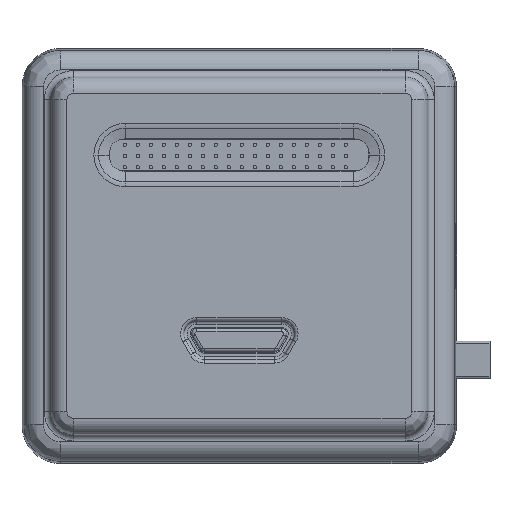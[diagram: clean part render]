
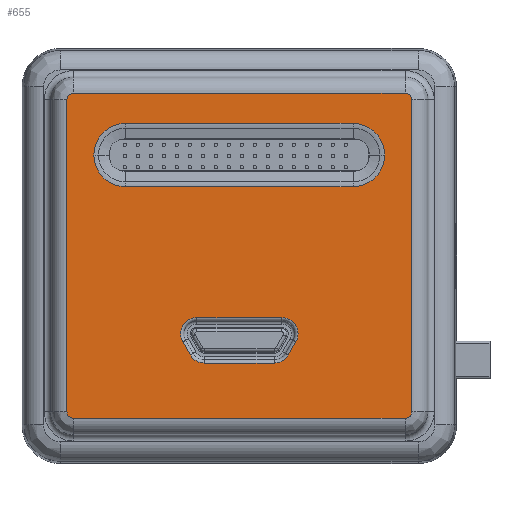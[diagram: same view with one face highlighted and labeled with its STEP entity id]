
A CAD part, top view. The second image highlights one B-rep face of the part: STEP entity #655.
In plain terms, the highlighted planar face has unit normal (0, 0, 1).
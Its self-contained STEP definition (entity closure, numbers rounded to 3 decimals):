
#147=FACE_BOUND('',#1275,.T.);
#148=FACE_BOUND('',#1276,.T.);
#149=FACE_BOUND('',#1277,.T.);
#655=ADVANCED_FACE('',(#147,#148,#149),#937,.T.);
#937=PLANE('',#5455);
#1275=EDGE_LOOP('',(#2309,#2310,#2311,#2312,#2313,#2314));
#1276=EDGE_LOOP('',(#2315,#2316,#2317,#2318,#2319,#2320,#2321,#2322));
#1277=EDGE_LOOP('',(#2323,#2324,#2325,#2326,#2327,#2328,#2329,#2330));
#1812=CIRCLE('',#5443,4.869);
#1813=CIRCLE('',#5444,4.869);
#1814=CIRCLE('',#5445,4.869);
#1815=CIRCLE('',#5446,4.869);
#1816=CIRCLE('',#5447,2.5);
#1817=CIRCLE('',#5448,2.5);
#1818=CIRCLE('',#5449,2.5);
#1819=CIRCLE('',#5450,2.5);
#1820=CIRCLE('',#5451,1.);
#1821=CIRCLE('',#5452,1.);
#1822=CIRCLE('',#5453,1.);
#1823=CIRCLE('',#5454,1.);
#2309=ORIENTED_EDGE('',*,*,#4170,.T.);
#2310=ORIENTED_EDGE('',*,*,#4171,.T.);
#2311=ORIENTED_EDGE('',*,*,#4172,.T.);
#2312=ORIENTED_EDGE('',*,*,#4173,.T.);
#2313=ORIENTED_EDGE('',*,*,#4174,.T.);
#2314=ORIENTED_EDGE('',*,*,#4175,.T.);
#2315=ORIENTED_EDGE('',*,*,#4176,.T.);
#2316=ORIENTED_EDGE('',*,*,#4177,.T.);
#2317=ORIENTED_EDGE('',*,*,#4178,.T.);
#2318=ORIENTED_EDGE('',*,*,#4179,.T.);
#2319=ORIENTED_EDGE('',*,*,#4180,.T.);
#2320=ORIENTED_EDGE('',*,*,#4181,.T.);
#2321=ORIENTED_EDGE('',*,*,#4182,.T.);
#2322=ORIENTED_EDGE('',*,*,#4183,.T.);
#2323=ORIENTED_EDGE('',*,*,#4184,.F.);
#2324=ORIENTED_EDGE('',*,*,#4185,.T.);
#2325=ORIENTED_EDGE('',*,*,#4186,.T.);
#2326=ORIENTED_EDGE('',*,*,#4187,.T.);
#2327=ORIENTED_EDGE('',*,*,#4188,.T.);
#2328=ORIENTED_EDGE('',*,*,#4189,.T.);
#2329=ORIENTED_EDGE('',*,*,#4190,.T.);
#2330=ORIENTED_EDGE('',*,*,#4191,.T.);
#3643=VERTEX_POINT('',#8246);
#3644=VERTEX_POINT('',#8247);
#3645=VERTEX_POINT('',#8249);
#3646=VERTEX_POINT('',#8251);
#3647=VERTEX_POINT('',#8253);
#3648=VERTEX_POINT('',#8255);
#3649=VERTEX_POINT('',#8258);
#3650=VERTEX_POINT('',#8259);
#3651=VERTEX_POINT('',#8261);
#3652=VERTEX_POINT('',#8263);
#3653=VERTEX_POINT('',#8265);
#3654=VERTEX_POINT('',#8267);
#3655=VERTEX_POINT('',#8269);
#3656=VERTEX_POINT('',#8271);
#3657=VERTEX_POINT('',#8274);
#3658=VERTEX_POINT('',#8275);
#3659=VERTEX_POINT('',#8277);
#3660=VERTEX_POINT('',#8279);
#3661=VERTEX_POINT('',#8281);
#3662=VERTEX_POINT('',#8283);
#3663=VERTEX_POINT('',#8285);
#3664=VERTEX_POINT('',#8287);
#4170=EDGE_CURVE('',#3643,#3644,#1812,.T.);
#4171=EDGE_CURVE('',#3644,#3645,#1813,.T.);
#4172=EDGE_CURVE('',#3645,#3646,#4795,.T.);
#4173=EDGE_CURVE('',#3646,#3647,#1814,.T.);
#4174=EDGE_CURVE('',#3647,#3648,#1815,.T.);
#4175=EDGE_CURVE('',#3648,#3643,#4796,.T.);
#4176=EDGE_CURVE('',#3649,#3650,#1816,.T.);
#4177=EDGE_CURVE('',#3650,#3651,#4797,.T.);
#4178=EDGE_CURVE('',#3651,#3652,#1817,.T.);
#4179=EDGE_CURVE('',#3652,#3653,#4798,.T.);
#4180=EDGE_CURVE('',#3653,#3654,#1818,.T.);
#4181=EDGE_CURVE('',#3654,#3655,#4799,.T.);
#4182=EDGE_CURVE('',#3655,#3656,#1819,.T.);
#4183=EDGE_CURVE('',#3656,#3649,#4800,.T.);
#4184=EDGE_CURVE('',#3657,#3658,#1820,.T.);
#4185=EDGE_CURVE('',#3657,#3659,#4801,.T.);
#4186=EDGE_CURVE('',#3659,#3660,#1821,.T.);
#4187=EDGE_CURVE('',#3660,#3661,#4802,.T.);
#4188=EDGE_CURVE('',#3661,#3662,#1822,.T.);
#4189=EDGE_CURVE('',#3662,#3663,#4803,.T.);
#4190=EDGE_CURVE('',#3663,#3664,#1823,.T.);
#4191=EDGE_CURVE('',#3664,#3658,#4804,.T.);
#4795=LINE('',#8250,#5105);
#4796=LINE('',#8256,#5106);
#4797=LINE('',#8260,#5107);
#4798=LINE('',#8264,#5108);
#4799=LINE('',#8268,#5109);
#4800=LINE('',#8272,#5110);
#4801=LINE('',#8276,#5111);
#4802=LINE('',#8280,#5112);
#4803=LINE('',#8284,#5113);
#4804=LINE('',#8288,#5114);
#5105=VECTOR('',#6257,1.);
#5106=VECTOR('',#6262,1.);
#5107=VECTOR('',#6265,1.);
#5108=VECTOR('',#6268,1.);
#5109=VECTOR('',#6271,1.);
#5110=VECTOR('',#6274,1.);
#5111=VECTOR('',#6277,1.);
#5112=VECTOR('',#6280,1.);
#5113=VECTOR('',#6283,1.);
#5114=VECTOR('',#6286,1.);
#5443=AXIS2_PLACEMENT_3D('',#8245,#6253,#6254);
#5444=AXIS2_PLACEMENT_3D('',#8248,#6255,#6256);
#5445=AXIS2_PLACEMENT_3D('',#8252,#6258,#6259);
#5446=AXIS2_PLACEMENT_3D('',#8254,#6260,#6261);
#5447=AXIS2_PLACEMENT_3D('',#8257,#6263,#6264);
#5448=AXIS2_PLACEMENT_3D('',#8262,#6266,#6267);
#5449=AXIS2_PLACEMENT_3D('',#8266,#6269,#6270);
#5450=AXIS2_PLACEMENT_3D('',#8270,#6272,#6273);
#5451=AXIS2_PLACEMENT_3D('',#8273,#6275,#6276);
#5452=AXIS2_PLACEMENT_3D('',#8278,#6278,#6279);
#5453=AXIS2_PLACEMENT_3D('',#8282,#6281,#6282);
#5454=AXIS2_PLACEMENT_3D('',#8286,#6284,#6285);
#5455=AXIS2_PLACEMENT_3D('',#8289,#6287,#6288);
#6253=DIRECTION('',(0.,0.,-1.));
#6254=DIRECTION('',(1.,0.,0.));
#6255=DIRECTION('',(0.,0.,-1.));
#6256=DIRECTION('',(1.,0.,0.));
#6257=DIRECTION('',(1.,0.,0.));
#6258=DIRECTION('',(0.,0.,-1.));
#6259=DIRECTION('',(1.,0.,0.));
#6260=DIRECTION('',(0.,0.,-1.));
#6261=DIRECTION('',(1.,0.,0.));
#6262=DIRECTION('',(-1.,0.,0.));
#6263=DIRECTION('',(0.,0.,-1.));
#6264=DIRECTION('',(1.,0.,0.));
#6265=DIRECTION('',(1.,0.,0.));
#6266=DIRECTION('',(0.,0.,-1.));
#6267=DIRECTION('',(1.,0.,0.));
#6268=DIRECTION('',(-0.5,-0.866,0.));
#6269=DIRECTION('',(0.,0.,-1.));
#6270=DIRECTION('',(1.,0.,0.));
#6271=DIRECTION('',(-1.,0.,0.));
#6272=DIRECTION('',(0.,0.,-1.));
#6273=DIRECTION('',(1.,0.,0.));
#6274=DIRECTION('',(-0.5,0.866,0.));
#6275=DIRECTION('',(0.,0.,-1.));
#6276=DIRECTION('',(1.,0.,0.));
#6277=DIRECTION('',(1.,0.,0.));
#6278=DIRECTION('',(0.,0.,1.));
#6279=DIRECTION('',(1.,0.,0.));
#6280=DIRECTION('',(0.,1.,0.));
#6281=DIRECTION('',(0.,0.,1.));
#6282=DIRECTION('',(1.,0.,0.));
#6283=DIRECTION('',(-1.,0.,0.));
#6284=DIRECTION('',(0.,0.,1.));
#6285=DIRECTION('',(1.,0.,0.));
#6286=DIRECTION('',(0.,-1.,0.));
#6287=DIRECTION('',(0.,0.,1.));
#6288=DIRECTION('',(-1.,0.,0.));
#8245=CARTESIAN_POINT('',(-17.5,15.5,16.));
#8246=CARTESIAN_POINT('',(-17.5,10.631,16.));
#8247=CARTESIAN_POINT('',(-22.369,15.5,16.));
#8248=CARTESIAN_POINT('',(-17.5,15.5,16.));
#8249=CARTESIAN_POINT('',(-17.5,20.369,16.));
#8250=CARTESIAN_POINT('',(0.,20.369,16.));
#8251=CARTESIAN_POINT('',(17.5,20.369,16.));
#8252=CARTESIAN_POINT('',(17.5,15.5,16.));
#8253=CARTESIAN_POINT('',(22.369,15.5,16.));
#8254=CARTESIAN_POINT('',(17.5,15.5,16.));
#8255=CARTESIAN_POINT('',(17.5,10.631,16.));
#8256=CARTESIAN_POINT('',(0.,10.631,16.));
#8257=CARTESIAN_POINT('',(-6.536,-12.,16.));
#8258=CARTESIAN_POINT('',(-8.701,-13.25,16.));
#8259=CARTESIAN_POINT('',(-6.536,-9.5,16.));
#8260=CARTESIAN_POINT('',(6.536,-9.5,16.));
#8261=CARTESIAN_POINT('',(6.536,-9.5,16.));
#8262=CARTESIAN_POINT('',(6.536,-12.,16.));
#8263=CARTESIAN_POINT('',(8.701,-13.25,16.));
#8264=CARTESIAN_POINT('',(7.546,-15.25,16.));
#8265=CARTESIAN_POINT('',(7.546,-15.25,16.));
#8266=CARTESIAN_POINT('',(5.381,-14.,16.));
#8267=CARTESIAN_POINT('',(5.381,-16.5,16.));
#8268=CARTESIAN_POINT('',(-5.381,-16.5,16.));
#8269=CARTESIAN_POINT('',(-5.381,-16.5,16.));
#8270=CARTESIAN_POINT('',(-5.381,-14.,16.));
#8271=CARTESIAN_POINT('',(-7.546,-15.25,16.));
#8272=CARTESIAN_POINT('',(-8.701,-13.25,16.));
#8273=CARTESIAN_POINT('',(-25.5,-24.,16.));
#8274=CARTESIAN_POINT('',(-25.5,-25.,16.));
#8275=CARTESIAN_POINT('',(-26.5,-24.,16.));
#8276=CARTESIAN_POINT('',(0.,-25.,16.));
#8277=CARTESIAN_POINT('',(25.5,-25.,16.));
#8278=CARTESIAN_POINT('',(25.5,-24.,16.));
#8279=CARTESIAN_POINT('',(26.5,-24.,16.));
#8280=CARTESIAN_POINT('',(26.5,0.,16.));
#8281=CARTESIAN_POINT('',(26.5,24.,16.));
#8282=CARTESIAN_POINT('',(25.5,24.,16.));
#8283=CARTESIAN_POINT('',(25.5,25.,16.));
#8284=CARTESIAN_POINT('',(0.,25.,16.));
#8285=CARTESIAN_POINT('',(-25.5,25.,16.));
#8286=CARTESIAN_POINT('',(-25.5,24.,16.));
#8287=CARTESIAN_POINT('',(-26.5,24.,16.));
#8288=CARTESIAN_POINT('',(-26.5,0.,16.));
#8289=CARTESIAN_POINT('',(0.,0.,16.));
